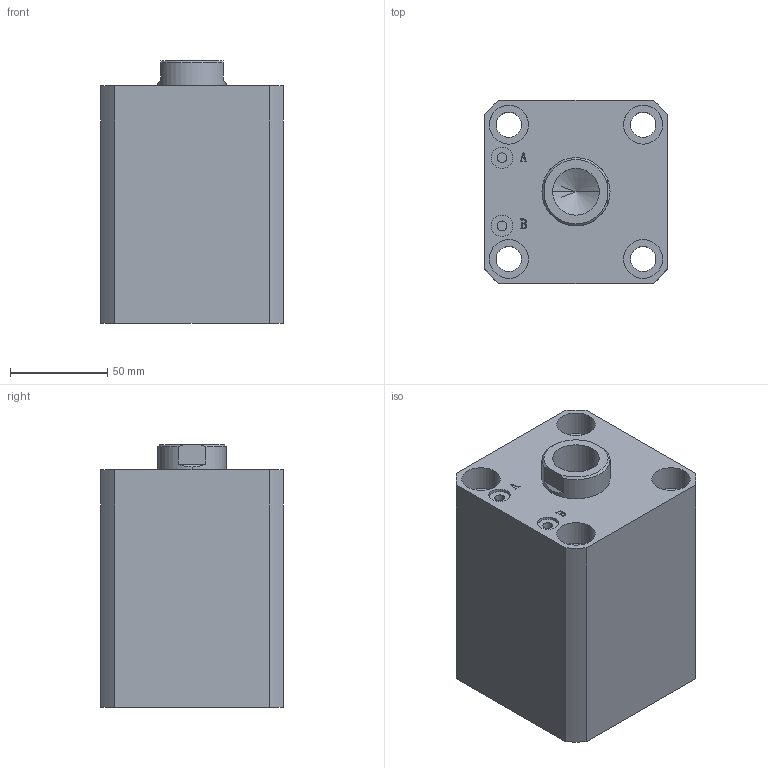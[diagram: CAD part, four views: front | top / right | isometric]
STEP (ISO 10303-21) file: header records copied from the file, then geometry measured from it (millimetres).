
FILE_DESCRIPTION (( 'STEP AP203' ), '1' );
FILE_NAME ('HTB-SDMA63-55N.STEP', '2019-10-08T01:08:44', ( '微软用户' ), ( '微软中国' ), 'SwSTEP 2.0', 'SolidWorks 2012', '' );
FILE_SCHEMA (( 'CONFIG_CONTROL_DESIGN' ));
Length unit declared in the file: millimetre
Products named in the file (3): HTB-SDMA63-55N; HTB-SDMA63-55N活塞杆; HTB-SDMA63-55掛极
Assembly tree (2 placements, depth 2):
  HTB-SDMA63-55N
    HTB-SDMA63-55掛极
    HTB-SDMA63-55N活塞杆
Bounding box: 94 x 94 x 135 mm (x, y, z)
Volume: 856256.3 mm3; surface area: 129082.8 mm2
Topology: 2 solids, 2 shells, 137 faces, 331 edges, 217 vertices
Faces by surface type: plane 65, cylinder 46, bspline 16, torus 6, cone 4
Entity records: 5070 total; most frequent: CARTESIAN_POINT 1576, ORIENTED_EDGE 658, DIRECTION 647, EDGE_CURVE 329, AXIS2_PLACEMENT_3D 232, VERTEX_POINT 217, VECTOR 183, LINE 183
